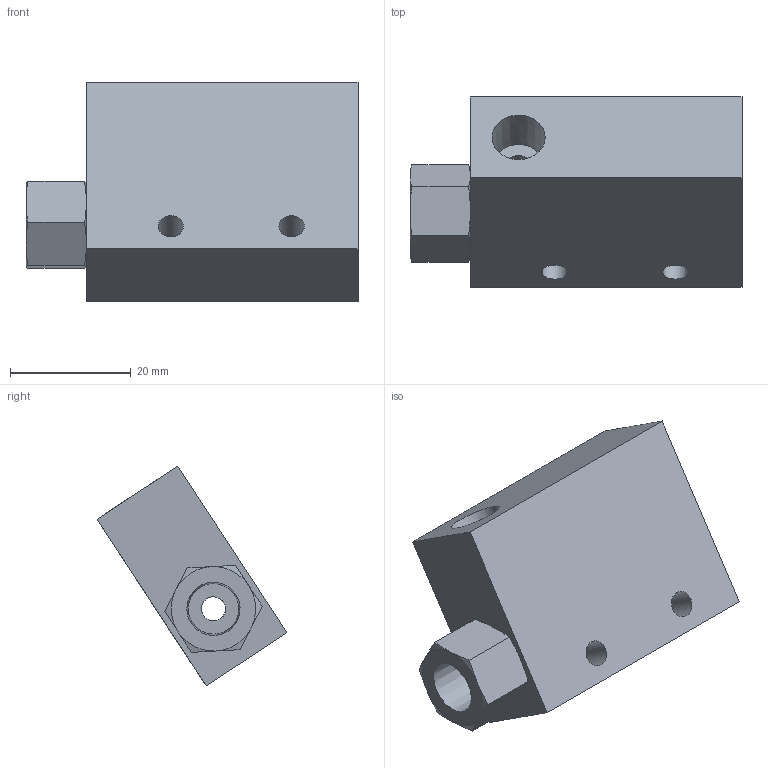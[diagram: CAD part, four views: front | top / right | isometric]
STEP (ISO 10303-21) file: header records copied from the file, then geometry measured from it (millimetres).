
FILE_DESCRIPTION(('STEP AP203'),'1');
FILE_NAME('BCV-05,10HSNS_3D.stp','2024-06-22T05:57:40',(' '),(' '),'Spatial InterOp 3D',' ',' ');
FILE_SCHEMA(('CONFIG_CONTROL_DESIGN'));
Length unit declared in the file: millimetre
Products named in the file (1): 1
Bounding box: 55 x 31.44 x 36.38 mm (x, y, z)
Volume: 22922.7 mm3; surface area: 7569.8 mm2
Topology: 1 solids, 1 shells, 36 faces, 81 edges, 49 vertices
Faces by surface type: cone 16, plane 15, cylinder 5
Full cylindrical faces by diameter (mm): 4 x2, 4.2 x2, 8.797 x1
Entity records: 1002 total; most frequent: CARTESIAN_POINT 211, DIRECTION 148, ORIENTED_EDGE 140, EDGE_CURVE 70, AXIS2_PLACEMENT_3D 65, EDGE_LOOP 56, VERTEX_POINT 48, FACE_OUTER_BOUND 41
